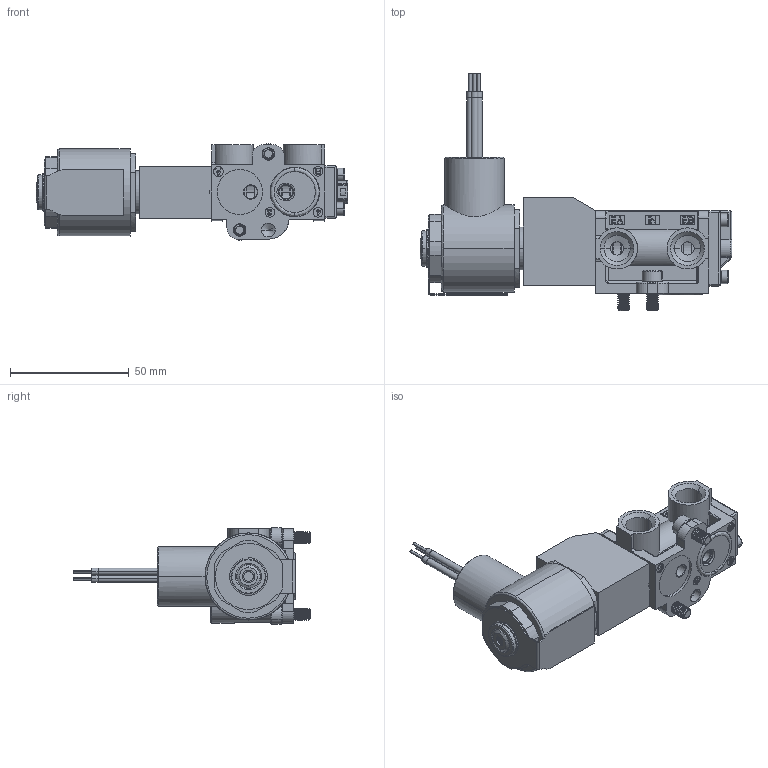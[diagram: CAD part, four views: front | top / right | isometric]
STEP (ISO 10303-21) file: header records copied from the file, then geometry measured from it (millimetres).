
FILE_DESCRIPTION (( 'STEP AP214' ), '1' );
FILE_NAME ('TVC5-X411-7N-XXX.STEP', '2025-05-08T14:38:22', ( '' ), ( '' ), 'SwSTEP 2.0', 'SolidWorks 2023', '' );
FILE_SCHEMA (( 'AUTOMOTIVE_DESIGN' ));
Length unit declared in the file: inch
Products named in the file (1): TVC5-X411-7N-XXX
Bounding box: 131.07 x 99.85 x 40.5 mm (x, y, z)
Volume: 101153.7 mm3; surface area: 40238 mm2
Topology: 13 solids, 14 shells, 1785 faces, 4677 edges, 3012 vertices
Faces by surface type: plane 1069, cylinder 438, cone 167, bspline 111
Entity records: 64129 total; most frequent: CARTESIAN_POINT 21109, ORIENTED_EDGE 9338, DIRECTION 8308, EDGE_CURVE 4669, VECTOR 3318, LINE 3318, VERTEX_POINT 3012, AXIS2_PLACEMENT_3D 2495
